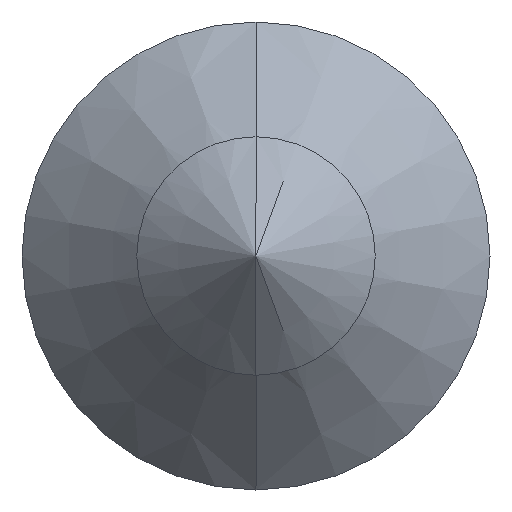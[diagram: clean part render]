
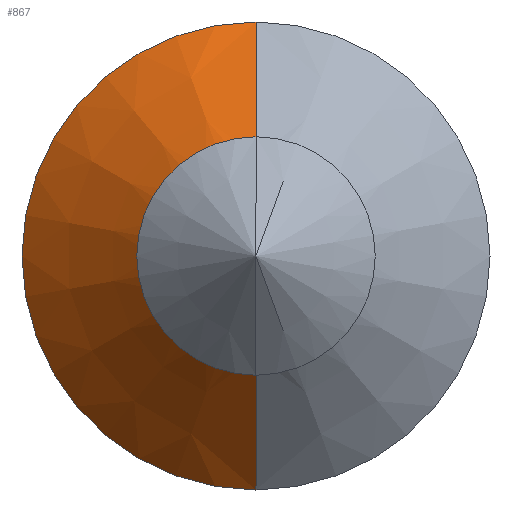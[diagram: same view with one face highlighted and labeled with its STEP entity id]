
A CAD part, left-side view. The second image highlights one B-rep face of the part: STEP entity #867.
In plain terms, the highlighted conical face has half-angle 45 degrees and reference radius 2.1 mm.
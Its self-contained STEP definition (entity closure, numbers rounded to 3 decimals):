
#204 = CARTESIAN_POINT ( 'NONE',  ( 0.955, 0., 0.9 ) ) ;
#361 = VERTEX_POINT ( 'NONE', #204 ) ;
#506 = VERTEX_POINT ( 'NONE', #1927 ) ;
#570 = LINE ( 'NONE', #2172, #3611 ) ;
#593 = CARTESIAN_POINT ( 'NONE',  ( 2.155, 0., 2.1 ) ) ;
#717 = EDGE_CURVE ( 'NONE', #361, #898, #3005, .T. ) ;
#757 = ORIENTED_EDGE ( 'NONE', *, *, #1915, .F. ) ;
#867 = ADVANCED_FACE ( 'NONE', ( #3407 ), #3230, .T. ) ;
#898 = VERTEX_POINT ( 'NONE', #2305 ) ;
#976 = VECTOR ( 'NONE', #3278, 1000. ) ;
#1084 = DIRECTION ( 'NONE',  ( 0.707, 0., -0.707 ) ) ;
#1109 = DIRECTION ( 'NONE',  ( 0., 0., 1. ) ) ;
#1144 = CIRCLE ( 'NONE', #2705, 0.9 ) ;
#1164 = DIRECTION ( 'NONE',  ( -1., 0., 0. ) ) ;
#1357 = ORIENTED_EDGE ( 'NONE', *, *, #1874, .T. ) ;
#1370 = DIRECTION ( 'NONE',  ( 0., 0., 1. ) ) ;
#1439 = ORIENTED_EDGE ( 'NONE', *, *, #1848, .F. ) ;
#1457 = AXIS2_PLACEMENT_3D ( 'NONE', #2503, #2521, #2497 ) ;
#1720 = CARTESIAN_POINT ( 'NONE',  ( 2.155, 0., 0. ) ) ;
#1794 = DIRECTION ( 'NONE',  ( -1., 0., 0. ) ) ;
#1848 = EDGE_CURVE ( 'NONE', #506, #2303, #570, .T. ) ;
#1874 = EDGE_CURVE ( 'NONE', #898, #2303, #3444, .T. ) ;
#1907 = CARTESIAN_POINT ( 'NONE',  ( 0.955, 0., 0. ) ) ;
#1915 = EDGE_CURVE ( 'NONE', #361, #506, #1144, .T. ) ;
#1927 = CARTESIAN_POINT ( 'NONE',  ( 0.955, 0., -0.9 ) ) ;
#2082 = ORIENTED_EDGE ( 'NONE', *, *, #717, .T. ) ;
#2172 = CARTESIAN_POINT ( 'NONE',  ( 2.155, 0., -2.1 ) ) ;
#2303 = VERTEX_POINT ( 'NONE', #3299 ) ;
#2305 = CARTESIAN_POINT ( 'NONE',  ( 2.155, 0., 2.1 ) ) ;
#2497 = DIRECTION ( 'NONE',  ( 0., 0., -1. ) ) ;
#2503 = CARTESIAN_POINT ( 'NONE',  ( 2.155, 0., 0. ) ) ;
#2521 = DIRECTION ( 'NONE',  ( 1., 0., 0. ) ) ;
#2705 = AXIS2_PLACEMENT_3D ( 'NONE', #1907, #1164, #1109 ) ;
#2753 = AXIS2_PLACEMENT_3D ( 'NONE', #1720, #1794, #1370 ) ;
#2996 = EDGE_LOOP ( 'NONE', ( #757, #2082, #1357, #1439 ) ) ;
#3005 = LINE ( 'NONE', #593, #976 ) ;
#3230 = CONICAL_SURFACE ( 'NONE', #1457, 2.1, 0.785 ) ;
#3278 = DIRECTION ( 'NONE',  ( 0.707, 0., 0.707 ) ) ;
#3299 = CARTESIAN_POINT ( 'NONE',  ( 2.155, 0., -2.1 ) ) ;
#3407 = FACE_OUTER_BOUND ( 'NONE', #2996, .T. ) ;
#3444 = CIRCLE ( 'NONE', #2753, 2.1 ) ;
#3611 = VECTOR ( 'NONE', #1084, 1000. ) ;
